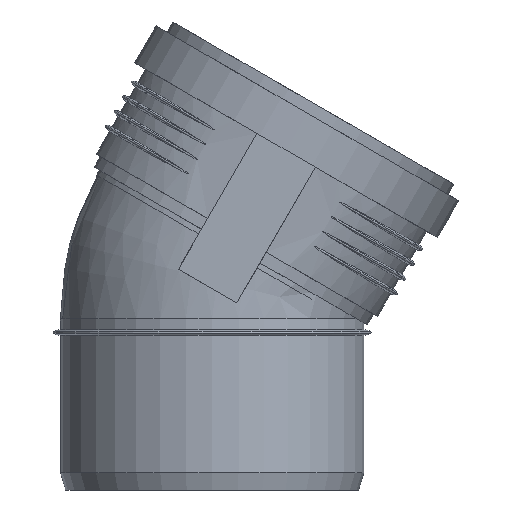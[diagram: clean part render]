
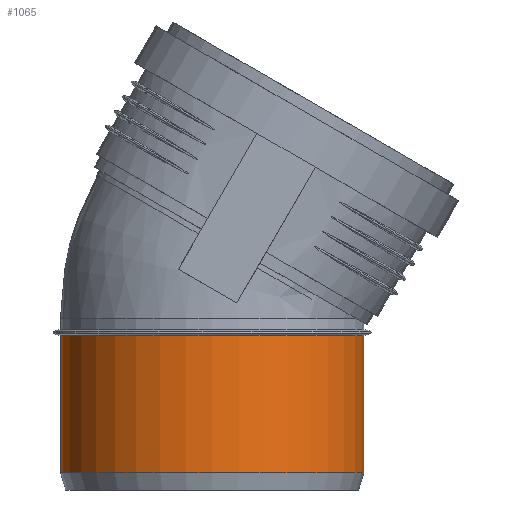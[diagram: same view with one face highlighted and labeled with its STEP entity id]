
A CAD part, front view. The second image highlights one B-rep face of the part: STEP entity #1065.
In plain terms, the highlighted cylindrical face has radius 80.125 mm (diameter 160.25 mm), a full revolution.
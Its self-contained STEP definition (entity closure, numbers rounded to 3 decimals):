
#190=CYLINDRICAL_SURFACE($,#1140,80.125);
#209=FACE_BOUND($,#314,.T.);
#252=FACE_OUTER_BOUND($,#313,.T.);
#313=EDGE_LOOP($,(#716));
#314=EDGE_LOOP($,(#717));
#414=CIRCLE($,#1138,80.125);
#416=CIRCLE($,#1141,80.125);
#469=VERTEX_POINT($,#1555);
#471=VERTEX_POINT($,#1560);
#575=EDGE_CURVE($,#469,#469,#414,.T.);
#577=EDGE_CURVE($,#471,#471,#416,.T.);
#716=ORIENTED_EDGE($,*,*,#577,.T.);
#717=ORIENTED_EDGE($,*,*,#575,.F.);
#1065=ADVANCED_FACE($,(#252,#209),#190,.T.);
#1138=AXIS2_PLACEMENT_3D($,#1556,#1267,#1268);
#1140=AXIS2_PLACEMENT_3D($,#1559,#1271,#1272);
#1141=AXIS2_PLACEMENT_3D($,#1561,#1273,#1274);
#1267=DIRECTION('center_axis',(0.,0.,-1.));
#1268=DIRECTION('ref_axis',(-1.,0.,0.));
#1271=DIRECTION('center_axis',(0.,0.,1.));
#1272=DIRECTION('ref_axis',(-1.,0.,0.));
#1273=DIRECTION('center_axis',(0.,0.,-1.));
#1274=DIRECTION('ref_axis',(-1.,0.,0.));
#1555=CARTESIAN_POINT('',(80.125,0.,9.));
#1556=CARTESIAN_POINT('Origin',(0.,0.,9.));
#1559=CARTESIAN_POINT('Origin',(0.,0.,0.));
#1560=CARTESIAN_POINT('',(-80.125,0.,81.6));
#1561=CARTESIAN_POINT('Origin',(0.,0.,81.6));
